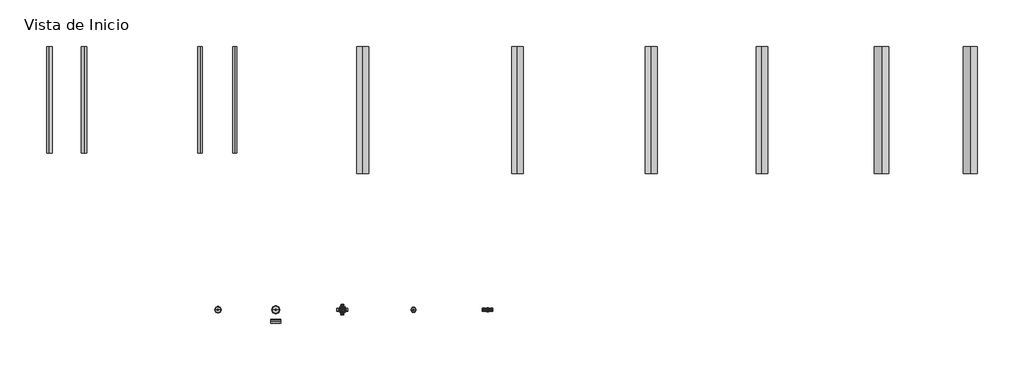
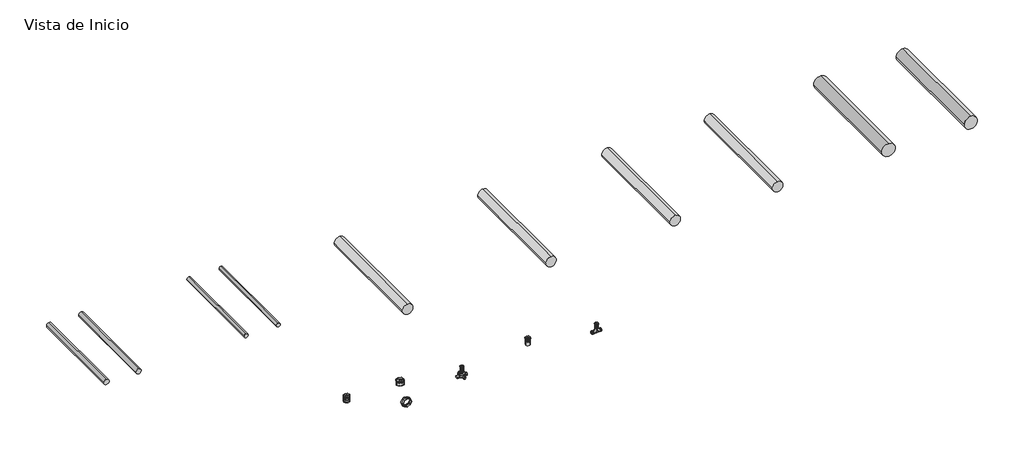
# One storey, incomplete: 12 pipe fittings, 10 pipe segments.
"""IFC4 building model written with IfcOpenShell, lengths in millimetres."""

from ifc_helpers import new_model, si_unit, point, frame, frame_2d, origin, place, context, project, spatial, circle_curve, trimmed, segment, composite_curve, outline, extrude, transform, mapped, element, save
from components import pipe_fitting_d91df425, pipe_fitting_ceb8de90, pipe_fitting_b7bcc274, var_5ea33b43, var_a52b8fc5, var_270639b3, var_83fec077, var_27db69a4, var_ec80d9ff, var_23e399f1, var_0efadf23

model = new_model("IFC4")

# Units and contexts
model_context = context("Model", 3, world=origin())
ifc_project = project(units=[si_unit("LENGTHUNIT", "METRE", prefix="MILLI")], contexts=[model_context])

# Site, building, storey
site = spatial("IfcSite", under=ifc_project)
building = spatial("IfcBuilding", under=site)
storey = spatial("IfcBuildingStorey", under=building, Name="Vista de Inicio", Elevation=0.0)

# Pipe fittings
placement = place(None, origin())
pipe_fitting_shape = pipe_fitting_d91df425(model_context)
element("IfcPipeFitting", 1, ObjectType="AmancoWavin_ConexõesdeTubos_SaneamentoEsgotoNãoUsarProlongamento : Novafort", at=placement, inside=storey, context=model_context, shape_type="MappedRepresentation", body=[
    mapped(pipe_fitting_shape, transform((-19906.9784552, -13760.2474132, 140.0036125), x_axis=(1.0, 0.0, 0.0), y_axis=(0.0, 1.0, 0.0), z_axis=(0.0, 0.0, 1.0))),
])
pipe_fitting_2_shape = pipe_fitting_ceb8de90(model_context)
element("IfcPipeFitting", 2, ObjectType="AmancoWavin_ConexõesdeTubos_SaneamentoEsgotoNãoUsarProlongamento : Novafort", at=placement, inside=storey, context=model_context, shape_type="MappedRepresentation", body=[
    mapped(pipe_fitting_2_shape, transform((-17446.9784552, -13760.2474132, 355.9355339), x_axis=(-1.0, 0.0, 0.0), y_axis=(0.0, -1.0, 0.0), z_axis=(0.0, 0.0, 1.0))),
])
pipe_fitting_3_shape = pipe_fitting_b7bcc274(model_context)
element("IfcPipeFitting", 3, ObjectType="AmancoWavin_ConexõesdeTubos_SaneamentoEsgotoNãoUsarProlongamento : Novafort", at=placement, inside=storey, context=model_context, shape_type="MappedRepresentation", body=[
    mapped(pipe_fitting_3_shape, transform((-14877.541442, -13760.2474132, 123.6432587), x_axis=(-1.0, 0.0, 0.0), y_axis=(0.0, -1.0, 0.0), z_axis=(0.0, 0.0, 1.0))),
])
var_shape = var_5ea33b43(model_context)
element("IfcPipeFitting", 4, ObjectType="AmancoWavin_ConexõesdeTubos_SaneamentoEsgotoNãoUsarTampãoparaTIL : var.", at=placement, inside=storey, context=model_context, shape_type="MappedRepresentation", body=[
    mapped(var_shape, transform((-22216.9784552, -13760.2474132, 469.0), x_axis=(-1.0, 0.0, 0.0), y_axis=(0.0, -1.0, 0.0), z_axis=(0.0, 0.0, 1.0))),
])
var_2_shape = var_a52b8fc5(model_context)
element("IfcPipeFitting", 5, ObjectType="AmancoWavin_ConexõesdeTubos_SaneamentoEsgotoNãoUsarBolsa : var.", at=placement, inside=storey, context=model_context, shape_type="MappedRepresentation", body=[
    mapped(var_2_shape, transform((-22216.9784552, -14097.5479051, 0.0), x_axis=(0.0, 1.0, 0.0), y_axis=(-1.0, 0.0, 0.0), z_axis=(0.0, 0.0, 1.0))),
])
var_3_shape = var_270639b3(model_context)
element("IfcPipeFitting", 6, ObjectType="AmancoWavin_ConexõesdeTubos_SaneamentoEsgotoNãoUsarProlongamento : var.", at=placement, inside=storey, context=model_context, shape_type="MappedRepresentation", body=[
    mapped(var_3_shape, transform((-24216.9784552, -13760.2474132, 490.0), x_axis=(1.0, 0.0, 0.0), y_axis=(0.0, 1.0, 0.0), z_axis=(0.0, 0.0, 1.0))),
])
var_4_shape = var_83fec077(model_context)
element("IfcPipeFitting", 7, ObjectType="AmancoWavin_ConexõesdeTubos_ColetoresTILcondominalDN100-3entradas : var.", at=placement, inside=storey, context=model_context, shape_type="MappedRepresentation", body=[
    mapped(var_4_shape, transform((-19906.9784552, -13760.2474132, 0.0), x_axis=(-1.0, 0.0, 0.0), y_axis=(0.0, -1.0, 0.0), z_axis=(0.0, 0.0, 1.0))),
])
var_5_shape = var_27db69a4(model_context)
element("IfcPipeFitting", 8, ObjectType="AmancoWavin_ConexõesdeTubos_SaneamentoEsgotoNãoUsarTampãoparaTIL : var.", at=placement, inside=storey, context=model_context, shape_type="MappedRepresentation", body=[
    mapped(var_5_shape, transform((-24216.9784552, -13760.2474132, 587.3847612), x_axis=(-1.0, 0.0, 0.0), y_axis=(0.0, -1.0, 0.0), z_axis=(0.0, 0.0, 1.0))),
])
var_6_shape = var_ec80d9ff(model_context)
element("IfcPipeFitting", 9, ObjectType="AmancoWavin_ConexõesdeTubos_SaneamentoEsgotoNãoUsarTampãoparaTIL : var.", at=placement, inside=storey, context=model_context, shape_type="MappedRepresentation", body=[
    mapped(var_6_shape, transform((-19906.9784552, -13760.2474132, 256.0630887), x_axis=(-1.0, 0.0, 0.0), y_axis=(0.0, -1.0, 0.0), z_axis=(0.0, 0.0, 1.0))),
])
element("IfcPipeFitting", 10, ObjectType="AmancoWavin_ConexõesdeTubos_SaneamentoEsgotoNãoUsarTampãoparaTIL : var.", at=placement, inside=storey, context=model_context, shape_type="MappedRepresentation", body=[
    mapped(var_6_shape, transform((-14877.541442, -13760.2474132, 183.6472009), x_axis=(1.0, 0.0, 0.0), y_axis=(0.0, 1.0, 0.0), z_axis=(0.0, 0.0, 1.0))),
])
var_7_shape = var_23e399f1(model_context)
element("IfcPipeFitting", 11, ObjectType="AmancoWavin_ConexõesdeTubos_SaneamentoEsgotoNãoUsarTampãoparaTIL : var.", at=placement, inside=storey, context=model_context, shape_type="MappedRepresentation", body=[
    mapped(var_7_shape, transform((-17446.9784552, -13760.2474132, 502.819973), x_axis=(1.0, 0.0, 0.0), y_axis=(0.0, 1.0, 0.0), z_axis=(0.0, 0.0, 1.0))),
])
var_8_shape = var_0efadf23(model_context)
element("IfcPipeFitting", 12, ObjectType="AmancoWavin_ConexõesdeTubos_ColetoresTILdeligaçãoDN101.6XDN110 : var.", at=placement, inside=storey, context=model_context, shape_type="MappedRepresentation", body=[
    mapped(var_8_shape, transform((-14877.541442, -13760.2474132, 0.0), x_axis=(1.0, 0.0, 0.0), y_axis=(0.0, 1.0, 0.0), z_axis=(0.0, 0.0, 1.0))),
])

# Pipe segments
element("IfcPipeSegment", 13, ObjectType="AmancoWavin Novafort GD-SN4 300 a 1000 mm", at=placement, inside=storey, context=model_context, shape_type="SweptSolid", body=[
    extrude(outline(composite_curve([segment(trimmed(circle_curve(frame_2d((-500.0, -1236.9784552)), 249.5), [point((-500.0, -1486.4784552))], [point((-749.5, -1236.9784552))], False, "CARTESIAN"), True, "CONTINUOUS"), segment(trimmed(circle_curve(frame_2d((-500.0, -1236.9784552)), 249.5), [point((-749.5, -1236.9784552))], [point((-500.0, -987.4784552))], False, "CARTESIAN"), True, "CONTINUOUS"), segment(trimmed(circle_curve(frame_2d((-500.0, -1236.9784552)), 249.5), [point((-500.0, -987.4784552))], [point((-250.5, -1236.9784552))], False, "CARTESIAN"), True, "CONTINUOUS"), segment(trimmed(circle_curve(frame_2d((-500.0, -1236.9784552)), 249.5), [point((-250.5, -1236.9784552))], [point((-500.0, -1486.4784552))], False, "CARTESIAN"), True, "CONTINUOUS")], self_intersect=False)), frame((0.0, -9030.0638423, 0.0), z_axis=(0.0, 1.0, 0.0), x_axis=(0.0, 0.0, 1.0)), (0.0, 0.0, 1.0), 4400.0),
])
element("IfcPipeSegment", 14, ObjectType="AmancoWavin Novafort GD-SN8 500mm", at=placement, inside=storey, context=model_context, shape_type="SweptSolid", body=[
    extrude(outline(composite_curve([segment(trimmed(circle_curve(frame_2d((-500.0, 1836.1191056)), 249.5), [point((-500.0, 1586.6191056))], [point((-749.5, 1836.1191056))], False, "CARTESIAN"), True, "CONTINUOUS"), segment(trimmed(circle_curve(frame_2d((-500.0, 1836.1191056)), 249.5), [point((-749.5, 1836.1191056))], [point((-500.0, 2085.6191056))], False, "CARTESIAN"), True, "CONTINUOUS"), segment(trimmed(circle_curve(frame_2d((-500.0, 1836.1191056)), 249.5), [point((-500.0, 2085.6191056))], [point((-250.5, 1836.1191056))], False, "CARTESIAN"), True, "CONTINUOUS"), segment(trimmed(circle_curve(frame_2d((-500.0, 1836.1191056)), 249.5), [point((-250.5, 1836.1191056))], [point((-500.0, 1586.6191056))], False, "CARTESIAN"), True, "CONTINUOUS")], self_intersect=False)), frame((0.0, -9030.0638423, 0.0), z_axis=(0.0, 1.0, 0.0), x_axis=(0.0, 0.0, 1.0)), (0.0, 0.0, 1.0), 4400.0),
])
element("IfcPipeSegment", 15, ObjectType="AmancoWavin Coletor Corrugado-SN4 150 a 400mm", at=placement, inside=storey, context=model_context, shape_type="SweptSolid", body=[
    extrude(outline(composite_curve([segment(trimmed(circle_curve(frame_2d((-500.0, -5380.4227951)), 200.0), [point((-500.0, -5180.4227951))], [point((-300.0, -5380.4227951))], False, "CARTESIAN"), True, "CONTINUOUS"), segment(trimmed(circle_curve(frame_2d((-500.0, -5380.4227951)), 200.0), [point((-300.0, -5380.4227951))], [point((-500.0, -5580.4227951))], False, "CARTESIAN"), True, "CONTINUOUS"), segment(trimmed(circle_curve(frame_2d((-500.0, -5380.4227951)), 200.0), [point((-500.0, -5580.4227951))], [point((-700.0, -5380.4227951))], False, "CARTESIAN"), True, "CONTINUOUS"), segment(trimmed(circle_curve(frame_2d((-500.0, -5380.4227951)), 200.0), [point((-700.0, -5380.4227951))], [point((-500.0, -5180.4227951))], False, "CARTESIAN"), True, "CONTINUOUS")], self_intersect=False)), frame((0.0, -9030.0638423, 0.0), z_axis=(0.0, 1.0, 0.0), x_axis=(0.0, 0.0, 1.0)), (0.0, 0.0, 1.0), 4400.0),
])
element("IfcPipeSegment", 16, ObjectType="AmancoWavin Coletor Corrugado-SN8 150 a 400mm", at=placement, inside=storey, context=model_context, shape_type="SweptSolid", body=[
    extrude(outline(composite_curve([segment(trimmed(circle_curve(frame_2d((-500.0, -9211.2827555)), 200.0), [point((-500.0, -9011.2827555))], [point((-300.0, -9211.2827555))], False, "CARTESIAN"), True, "CONTINUOUS"), segment(trimmed(circle_curve(frame_2d((-500.0, -9211.2827555)), 200.0), [point((-300.0, -9211.2827555))], [point((-500.0, -9411.2827555))], False, "CARTESIAN"), True, "CONTINUOUS"), segment(trimmed(circle_curve(frame_2d((-500.0, -9211.2827555)), 200.0), [point((-500.0, -9411.2827555))], [point((-700.0, -9211.2827555))], False, "CARTESIAN"), True, "CONTINUOUS"), segment(trimmed(circle_curve(frame_2d((-500.0, -9211.2827555)), 200.0), [point((-700.0, -9211.2827555))], [point((-500.0, -9011.2827555))], False, "CARTESIAN"), True, "CONTINUOUS")], self_intersect=False)), frame((0.0, -9030.0638423, 0.0), z_axis=(0.0, 1.0, 0.0), x_axis=(0.0, 0.0, 1.0)), (0.0, 0.0, 1.0), 4400.0),
])
element("IfcPipeSegment", 17, ObjectType="AmancoWavin Coletor Maciço-100 a 400mm", at=placement, inside=storey, context=model_context, shape_type="SweptSolid", body=[
    extrude(outline(composite_curve([segment(trimmed(circle_curve(frame_2d((-500.0, -13846.1503618)), 200.0), [point((-500.0, -13646.1503618))], [point((-300.0, -13846.1503618))], False, "CARTESIAN"), True, "CONTINUOUS"), segment(trimmed(circle_curve(frame_2d((-500.0, -13846.1503618)), 200.0), [point((-300.0, -13846.1503618))], [point((-500.0, -14046.1503618))], False, "CARTESIAN"), True, "CONTINUOUS"), segment(trimmed(circle_curve(frame_2d((-500.0, -13846.1503618)), 200.0), [point((-500.0, -14046.1503618))], [point((-700.0, -13846.1503618))], False, "CARTESIAN"), True, "CONTINUOUS"), segment(trimmed(circle_curve(frame_2d((-500.0, -13846.1503618)), 200.0), [point((-700.0, -13846.1503618))], [point((-500.0, -13646.1503618))], False, "CARTESIAN"), True, "CONTINUOUS")], self_intersect=False)), frame((0.0, -9030.0638423, 0.0), z_axis=(0.0, 1.0, 0.0), x_axis=(0.0, 0.0, 1.0)), (0.0, 0.0, 1.0), 4400.0),
])
element("IfcPipeSegment", 18, ObjectType="AmancoWavin Coletor Celular-150 a 400mm", at=placement, inside=storey, context=model_context, shape_type="SweptSolid", body=[
    extrude(outline(composite_curve([segment(trimmed(circle_curve(frame_2d((-500.0, -19203.6040752)), 200.0), [point((-500.0, -19003.6040752))], [point((-300.0, -19203.6040752))], False, "CARTESIAN"), True, "CONTINUOUS"), segment(trimmed(circle_curve(frame_2d((-500.0, -19203.6040752)), 200.0), [point((-300.0, -19203.6040752))], [point((-500.0, -19403.6040752))], False, "CARTESIAN"), True, "CONTINUOUS"), segment(trimmed(circle_curve(frame_2d((-500.0, -19203.6040752)), 200.0), [point((-500.0, -19403.6040752))], [point((-700.0, -19203.6040752))], False, "CARTESIAN"), True, "CONTINUOUS"), segment(trimmed(circle_curve(frame_2d((-500.0, -19203.6040752)), 200.0), [point((-700.0, -19203.6040752))], [point((-500.0, -19003.6040752))], False, "CARTESIAN"), True, "CONTINUOUS")], self_intersect=False)), frame((0.0, -9030.0638423, 0.0), z_axis=(0.0, 1.0, 0.0), x_axis=(0.0, 0.0, 1.0)), (0.0, 0.0, 1.0), 4400.0),
])
element("IfcPipeSegment", 19, ObjectType="Amanco Wavin Esgoto Série Normal SEM Bolsa", at=placement, inside=storey, context=model_context, shape_type="SweptSolid", body=[
    extrude(outline(composite_curve([segment(trimmed(circle_curve(frame_2d((0.0, -30054.1990657)), 100.0), [point((0.0, -30154.1990657))], [point((-100.0, -30054.1990657))], False, "CARTESIAN"), True, "CONTINUOUS"), segment(trimmed(circle_curve(frame_2d((0.0, -30054.1990657)), 100.0), [point((-100.0, -30054.1990657))], [point((0.0, -29954.1990657))], False, "CARTESIAN"), True, "CONTINUOUS"), segment(trimmed(circle_curve(frame_2d((0.0, -30054.1990657)), 100.0), [point((0.0, -29954.1990657))], [point((100.0, -30054.1990657))], False, "CARTESIAN"), True, "CONTINUOUS"), segment(trimmed(circle_curve(frame_2d((0.0, -30054.1990657)), 100.0), [point((100.0, -30054.1990657))], [point((0.0, -30154.1990657))], False, "CARTESIAN"), True, "CONTINUOUS")], self_intersect=False)), frame((0.0, -8330.0638423, 0.0), z_axis=(0.0, 1.0, 0.0), x_axis=(0.0, 0.0, 1.0)), (0.0, 0.0, 1.0), 3700.0),
])
element("IfcPipeSegment", 20, ObjectType="Amanco Wavin Esgoto Série Normal COM Bolsa", at=placement, inside=storey, context=model_context, shape_type="SweptSolid", body=[
    extrude(outline(composite_curve([segment(trimmed(circle_curve(frame_2d((0.0, -28854.1990657)), 100.0), [point((0.0, -28954.1990657))], [point((-100.0, -28854.1990657))], False, "CARTESIAN"), True, "CONTINUOUS"), segment(trimmed(circle_curve(frame_2d((0.0, -28854.1990657)), 100.0), [point((-100.0, -28854.1990657))], [point((0.0, -28754.1990657))], False, "CARTESIAN"), True, "CONTINUOUS"), segment(trimmed(circle_curve(frame_2d((0.0, -28854.1990657)), 100.0), [point((0.0, -28754.1990657))], [point((100.0, -28854.1990657))], False, "CARTESIAN"), True, "CONTINUOUS"), segment(trimmed(circle_curve(frame_2d((0.0, -28854.1990657)), 100.0), [point((100.0, -28854.1990657))], [point((0.0, -28954.1990657))], False, "CARTESIAN"), True, "CONTINUOUS")], self_intersect=False)), frame((0.0, -8330.0638423, 0.0), z_axis=(0.0, 1.0, 0.0), x_axis=(0.0, 0.0, 1.0)), (0.0, 0.0, 1.0), 3700.0),
])
element("IfcPipeSegment", 21, ObjectType="Amanco Wavin Esgoto Série Reforçada COM Bolsa", at=placement, inside=storey, context=model_context, shape_type="SweptSolid", body=[
    extrude(outline(composite_curve([segment(trimmed(circle_curve(frame_2d((0.0, -23634.6090488)), 75.0), [point((0.0, -23709.6090488))], [point((-75.0, -23634.6090488))], False, "CARTESIAN"), True, "CONTINUOUS"), segment(trimmed(circle_curve(frame_2d((0.0, -23634.6090488)), 75.0), [point((-75.0, -23634.6090488))], [point((0.0, -23559.6090488))], False, "CARTESIAN"), True, "CONTINUOUS"), segment(trimmed(circle_curve(frame_2d((0.0, -23634.6090488)), 75.0), [point((0.0, -23559.6090488))], [point((75.0, -23634.6090488))], False, "CARTESIAN"), True, "CONTINUOUS"), segment(trimmed(circle_curve(frame_2d((0.0, -23634.6090488)), 75.0), [point((75.0, -23634.6090488))], [point((0.0, -23709.6090488))], False, "CARTESIAN"), True, "CONTINUOUS")], self_intersect=False)), frame((0.0, -8330.0638423, 0.0), z_axis=(0.0, 1.0, 0.0), x_axis=(0.0, 0.0, 1.0)), (0.0, 0.0, 1.0), 3700.0),
])
element("IfcPipeSegment", 22, ObjectType="Amanco Wavin Esgoto Série Reforçada SEM Bolsa", at=placement, inside=storey, context=model_context, shape_type="SweptSolid", body=[
    extrude(outline(composite_curve([segment(trimmed(circle_curve(frame_2d((0.0, -24834.6090488)), 75.0), [point((0.0, -24909.6090488))], [point((-75.0, -24834.6090488))], False, "CARTESIAN"), True, "CONTINUOUS"), segment(trimmed(circle_curve(frame_2d((0.0, -24834.6090488)), 75.0), [point((-75.0, -24834.6090488))], [point((0.0, -24759.6090488))], False, "CARTESIAN"), True, "CONTINUOUS"), segment(trimmed(circle_curve(frame_2d((0.0, -24834.6090488)), 75.0), [point((0.0, -24759.6090488))], [point((75.0, -24834.6090488))], False, "CARTESIAN"), True, "CONTINUOUS"), segment(trimmed(circle_curve(frame_2d((0.0, -24834.6090488)), 75.0), [point((75.0, -24834.6090488))], [point((0.0, -24909.6090488))], False, "CARTESIAN"), True, "CONTINUOUS")], self_intersect=False)), frame((0.0, -8330.0638423, 0.0), z_axis=(0.0, 1.0, 0.0), x_axis=(0.0, 0.0, 1.0)), (0.0, 0.0, 1.0), 3700.0),
])

save(model, "model.ifc")
